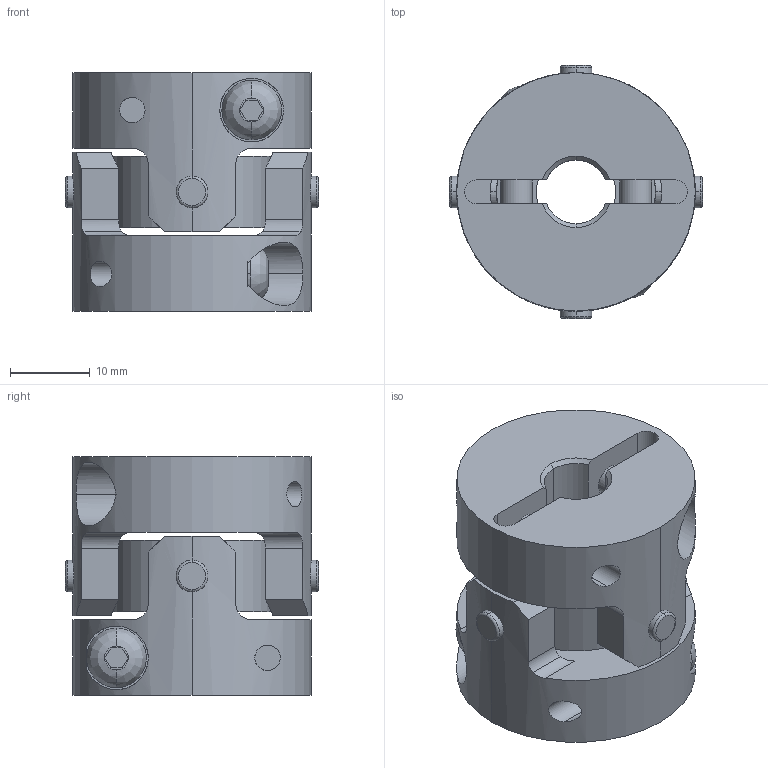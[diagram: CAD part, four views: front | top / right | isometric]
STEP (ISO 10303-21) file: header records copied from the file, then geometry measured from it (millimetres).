
FILE_DESCRIPTION((''),'2;1');
FILE_NAME('UA-30C-8×14.stp','2013-05-21T15:46:56',(''),(''),'AutoCAD STEP 2000i','AutoCAD 2000i',', , ');
FILE_SCHEMA(('CONFIG_CONTROL_DESIGN'));
Length unit declared in the file: millimetre
Products named in the file (7): UA-30C-6×11; 忣兜1; UA-3002-D11; BTN-M4; UA-3002-D06-1; UA-3002-D06; UA30-SEN
Assembly tree (8 placements, depth 3):
  UA-30C-6×11
    忣兜1
    UA-3002-D11
      BTN-M4
    UA-3002-D06-1
      BTN-M4
    UA-3002-D06
      BTN-M4
    UA30-SEN
Bounding box: 31.82 x 31.82 x 30 mm (x, y, z)
Volume: 14048.5 mm3; surface area: 8639.9 mm2
Topology: 1 solids, 1 shells, 206 faces, 554 edges, 364 vertices
Faces by surface type: cylinder 96, plane 78, cone 16, bspline 8, torus 8
Entity records: 8477 total; most frequent: CARTESIAN_POINT 3141, ORIENTED_EDGE 1108, DIRECTION 1068, EDGE_CURVE 554, AXIS2_PLACEMENT_3D 411, VERTEX_POINT 364, VECTOR 246, LINE 246
